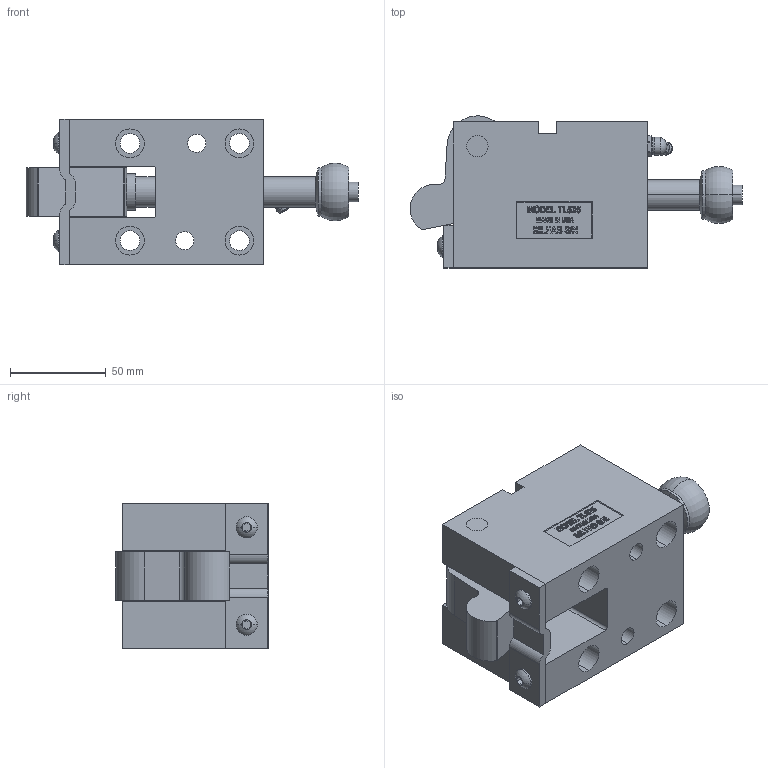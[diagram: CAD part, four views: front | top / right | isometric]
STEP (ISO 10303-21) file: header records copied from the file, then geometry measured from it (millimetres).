
FILE_DESCRIPTION (( 'STEP AP214' ), '1' );
FILE_NAME ('TL62545-C.STEP', '2014-01-05T22:17:41', ( 'user' ), ( '' ), 'SwSTEP 2.0', 'SolidWorks 2009', '' );
FILE_SCHEMA (( 'AUTOMOTIVE_DESIGN' ));
Length unit declared in the file: inch
Products named in the file (11): TL62545-C; 1-4 SCREW; TL625-BODY; L625-PUNCH; 625-WASHER; I-625-POINT; 625-I-STRAP; 625 PIVOT PIN; 625 STRIPPER CLOSED; GREASE ZERK; 625-OFFSET TRIGGER
Assembly tree (11 placements, depth 2):
  TL62545-C
    L625-PUNCH
    625 PIVOT PIN
    625 STRIPPER CLOSED
    1-4 SCREW  x2
    I-625-POINT
    GREASE ZERK
    625-I-STRAP
    625-WASHER
    625-OFFSET TRIGGER
    TL625-BODY
Bounding box: 173.31 x 79.35 x 76.2 mm (x, y, z)
Volume: 520893.1 mm3; surface area: 95963 mm2
Topology: 11 solids, 11 shells, 589 faces, 1520 edges, 998 vertices
Faces by surface type: plane 342, cylinder 100, bspline 91, cone 30, torus 22, sphere 4
Entity records: 23095 total; most frequent: CARTESIAN_POINT 9183, ORIENTED_EDGE 2952, DIRECTION 2436, EDGE_CURVE 1476, VERTEX_POINT 972, VECTOR 968, LINE 968, AXIS2_PLACEMENT_3D 734
